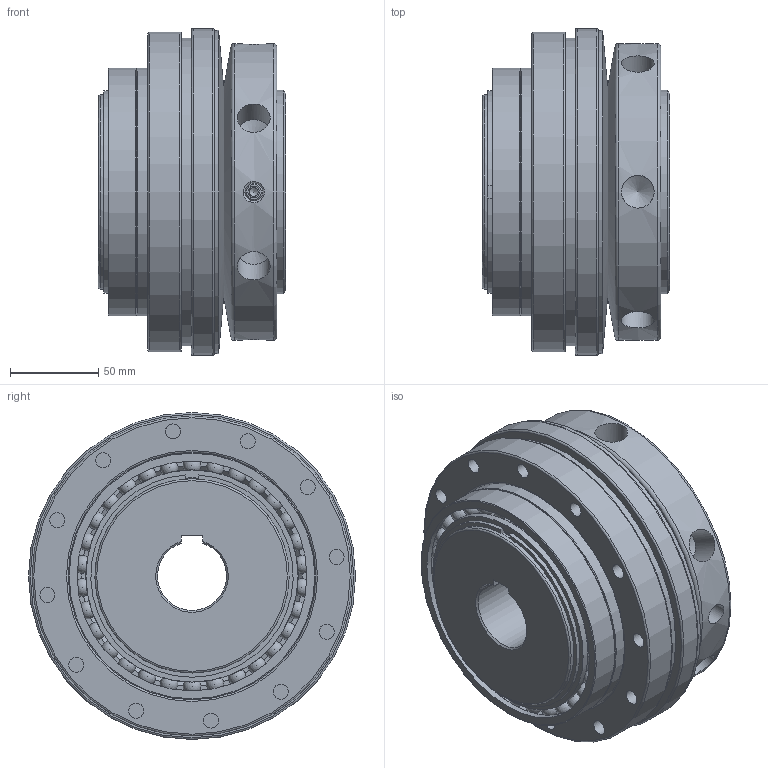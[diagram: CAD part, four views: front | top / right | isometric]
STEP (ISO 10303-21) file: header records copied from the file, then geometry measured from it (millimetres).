
FILE_DESCRIPTION( ( 'Unknown' ), '1' );
FILE_NAME( 'F:/JAKOB-STEP+IGES-Dateien/STEP-Dateien/SKW/SKW 1000.stp', 'Unknown', ( 'Unknown' ), ( 'Unknown' ), 'PSStep 10.1', 'Unknown', ' ' );
FILE_SCHEMA( ( 'AUTOMOTIVE_DESIGN { 1 0 10303 214 1 1 1 1 }' ) );
Length unit declared in the file: millimetre
Products named in the file (1): 27920755
Bounding box: 106 x 185 x 185 mm (x, y, z)
Volume: 1934897.5 mm3; surface area: 212398.3 mm2
Topology: 1 solids, 4 shells, 315 faces, 1201 edges, 799 vertices
Faces by surface type: torus 135, sphere 60, cylinder 51, plane 48, cone 21
Full cylindrical faces by diameter (mm): 8.5 x14, 10 x1, 12 x2, 18.5 x6, 107.7 x2, 109.8 x1, 110 x4, 114.98 x1, 115 x3, 116 x1, 120 x3, 130 x3, 140 x2, 168 x1, 174 x1, 181 x1, 185 x1
Entity records: 20314 total; most frequent: CARTESIAN_POINT 9878, ORIENTED_EDGE 1774, DIRECTION 1374, EDGE_CURVE 887, AXIS2_PLACEMENT_3D 667, VERTEX_POINT 635, B_SPLINE_CURVE_WITH_KNOTS 496, EDGE_LOOP 490
